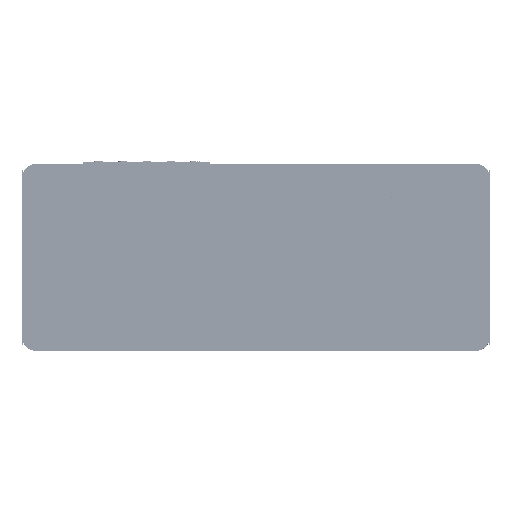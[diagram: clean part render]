
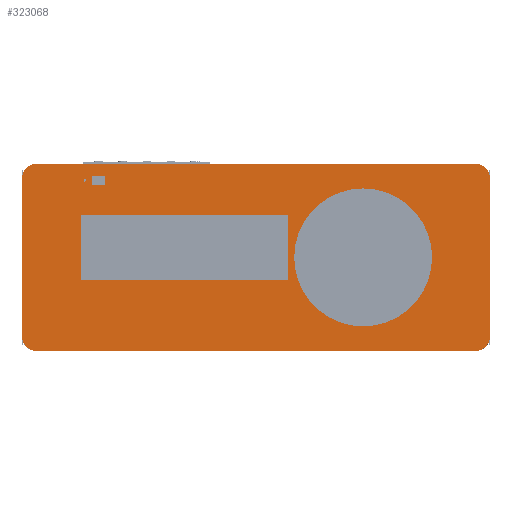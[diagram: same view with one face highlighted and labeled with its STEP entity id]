
A CAD part, top view. The second image highlights one B-rep face of the part: STEP entity #323068.
In plain terms, the highlighted planar face has unit normal (0, 0, 1).
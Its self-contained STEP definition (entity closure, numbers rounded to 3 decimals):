
#15062=FACE_BOUND('',#45192,.T.);
#15063=FACE_BOUND('',#45193,.T.);
#15064=FACE_BOUND('',#45194,.T.);
#15065=FACE_BOUND('',#45195,.T.);
#15925=CIRCLE('',#342103,6.);
#16225=CIRCLE('',#342407,6.);
#16535=CIRCLE('',#343027,6.);
#16833=CIRCLE('',#343329,6.);
#17133=CIRCLE('',#343942,0.5);
#17137=CIRCLE('',#343948,28.);
#27572=FACE_OUTER_BOUND('',#45191,.T.);
#45191=EDGE_LOOP('',(#220131,#220132,#220133,#220134,#220135,#220136,#220137,
#220138));
#45192=EDGE_LOOP('',(#220139,#220140,#220141,#220142));
#45193=EDGE_LOOP('',(#220143));
#45194=EDGE_LOOP('',(#220144,#220145,#220146,#220147));
#45195=EDGE_LOOP('',(#220148));
#61951=LINE('',#455449,#100237);
#62319=LINE('',#458052,#100605);
#62654=LINE('',#460236,#100940);
#62658=LINE('',#460244,#100944);
#62661=LINE('',#460250,#100947);
#62664=LINE('',#460255,#100950);
#62669=LINE('',#460277,#100955);
#62670=LINE('',#460278,#100956);
#62671=LINE('',#460281,#100957);
#62672=LINE('',#460283,#100958);
#62673=LINE('',#460285,#100959);
#62674=LINE('',#460286,#100960);
#100237=VECTOR('',#367222,10.);
#100605=VECTOR('',#369436,10.);
#100940=VECTOR('',#371585,10.);
#100944=VECTOR('',#371591,10.);
#100947=VECTOR('',#371596,10.);
#100950=VECTOR('',#371601,10.);
#100955=VECTOR('',#371628,10.);
#100956=VECTOR('',#371629,10.);
#100957=VECTOR('',#371630,10.);
#100958=VECTOR('',#371631,10.);
#100959=VECTOR('',#371632,10.);
#100960=VECTOR('',#371633,10.);
#138477=VERTEX_POINT('',#455085);
#138478=VERTEX_POINT('',#455087);
#138513=VERTEX_POINT('',#455447);
#138812=VERTEX_POINT('',#456060);
#139163=VERTEX_POINT('',#457690);
#139164=VERTEX_POINT('',#457692);
#139198=VERTEX_POINT('',#458050);
#139496=VERTEX_POINT('',#458661);
#139820=VERTEX_POINT('',#460234);
#139821=VERTEX_POINT('',#460235);
#139824=VERTEX_POINT('',#460243);
#139826=VERTEX_POINT('',#460249);
#139829=VERTEX_POINT('',#460260);
#139833=VERTEX_POINT('',#460272);
#139834=VERTEX_POINT('',#460279);
#139835=VERTEX_POINT('',#460280);
#139836=VERTEX_POINT('',#460282);
#139837=VERTEX_POINT('',#460284);
#168958=EDGE_CURVE('',#138478,#138477,#15925,.T.);
#168996=EDGE_CURVE('',#138477,#138513,#61951,.T.);
#169308=EDGE_CURVE('',#138513,#138812,#16225,.T.);
#169980=EDGE_CURVE('',#139164,#139163,#16535,.T.);
#170017=EDGE_CURVE('',#139163,#139198,#62319,.T.);
#170328=EDGE_CURVE('',#139198,#139496,#16833,.T.);
#170970=EDGE_CURVE('',#139820,#139821,#62654,.T.);
#170974=EDGE_CURVE('',#139821,#139824,#62658,.T.);
#170977=EDGE_CURVE('',#139824,#139826,#62661,.T.);
#170980=EDGE_CURVE('',#139826,#139820,#62664,.T.);
#170984=EDGE_CURVE('',#139829,#139829,#17133,.T.);
#170990=EDGE_CURVE('',#139833,#139833,#17137,.T.);
#170991=EDGE_CURVE('',#138812,#139164,#62669,.T.);
#170992=EDGE_CURVE('',#139496,#138478,#62670,.T.);
#170993=EDGE_CURVE('',#139834,#139835,#62671,.T.);
#170994=EDGE_CURVE('',#139835,#139836,#62672,.T.);
#170995=EDGE_CURVE('',#139836,#139837,#62673,.T.);
#170996=EDGE_CURVE('',#139837,#139834,#62674,.T.);
#220131=ORIENTED_EDGE('',*,*,#170991,.T.);
#220132=ORIENTED_EDGE('',*,*,#169980,.T.);
#220133=ORIENTED_EDGE('',*,*,#170017,.T.);
#220134=ORIENTED_EDGE('',*,*,#170328,.T.);
#220135=ORIENTED_EDGE('',*,*,#170992,.T.);
#220136=ORIENTED_EDGE('',*,*,#168958,.T.);
#220137=ORIENTED_EDGE('',*,*,#168996,.T.);
#220138=ORIENTED_EDGE('',*,*,#169308,.T.);
#220139=ORIENTED_EDGE('',*,*,#170977,.T.);
#220140=ORIENTED_EDGE('',*,*,#170980,.T.);
#220141=ORIENTED_EDGE('',*,*,#170970,.T.);
#220142=ORIENTED_EDGE('',*,*,#170974,.T.);
#220143=ORIENTED_EDGE('',*,*,#170984,.T.);
#220144=ORIENTED_EDGE('',*,*,#170993,.T.);
#220145=ORIENTED_EDGE('',*,*,#170994,.T.);
#220146=ORIENTED_EDGE('',*,*,#170995,.T.);
#220147=ORIENTED_EDGE('',*,*,#170996,.T.);
#220148=ORIENTED_EDGE('',*,*,#170990,.T.);
#310099=PLANE('',#343950);
#323068=ADVANCED_FACE('',(#27572,#15062,#15063,#15064,#15065),#310099,.T.);
#342103=AXIS2_PLACEMENT_3D('',#455088,#367200,#367201);
#342407=AXIS2_PLACEMENT_3D('',#456062,#367836,#367837);
#343027=AXIS2_PLACEMENT_3D('',#457693,#369416,#369417);
#343329=AXIS2_PLACEMENT_3D('',#458663,#370048,#370049);
#343942=AXIS2_PLACEMENT_3D('',#460262,#371608,#371609);
#343948=AXIS2_PLACEMENT_3D('',#460274,#371622,#371623);
#343950=AXIS2_PLACEMENT_3D('',#460276,#371626,#371627);
#367200=DIRECTION('center_axis',(0.,0.,1.));
#367201=DIRECTION('ref_axis',(1.,0.,0.));
#367222=DIRECTION('',(0.,1.,0.));
#367836=DIRECTION('center_axis',(0.,0.,1.));
#367837=DIRECTION('ref_axis',(1.,0.,0.));
#369416=DIRECTION('center_axis',(0.,0.,1.));
#369417=DIRECTION('ref_axis',(1.,0.,0.));
#369436=DIRECTION('',(0.,-1.,0.));
#370048=DIRECTION('center_axis',(0.,0.,1.));
#370049=DIRECTION('ref_axis',(1.,0.,0.));
#371585=DIRECTION('',(1.,0.,0.));
#371591=DIRECTION('',(0.,-1.,0.));
#371596=DIRECTION('',(-1.,0.,0.));
#371601=DIRECTION('',(0.,1.,0.));
#371608=DIRECTION('center_axis',(0.,0.,-1.));
#371609=DIRECTION('ref_axis',(1.,0.,0.));
#371622=DIRECTION('center_axis',(0.,0.,-1.));
#371623=DIRECTION('ref_axis',(1.,0.,0.));
#371626=DIRECTION('center_axis',(0.,0.,1.));
#371627=DIRECTION('ref_axis',(1.,0.,0.));
#371628=DIRECTION('',(-1.,0.,0.));
#371629=DIRECTION('',(1.,0.,0.));
#371630=DIRECTION('',(-1.,0.,0.));
#371631=DIRECTION('',(0.,1.,0.));
#371632=DIRECTION('',(1.,0.,0.));
#371633=DIRECTION('',(0.,-1.,0.));
#455085=CARTESIAN_POINT('',(95.,-32.,32.5));
#455087=CARTESIAN_POINT('',(89.,-38.,32.5));
#455088=CARTESIAN_POINT('Origin',(89.,-32.,32.5));
#455447=CARTESIAN_POINT('',(95.,32.,32.5));
#455449=CARTESIAN_POINT('',(95.,0.,32.5));
#456060=CARTESIAN_POINT('',(89.,38.,32.5));
#456062=CARTESIAN_POINT('Origin',(89.,32.,32.5));
#457690=CARTESIAN_POINT('',(-95.,32.,32.5));
#457692=CARTESIAN_POINT('',(-89.,38.,32.5));
#457693=CARTESIAN_POINT('Origin',(-89.,32.,32.5));
#458050=CARTESIAN_POINT('',(-95.,-32.,32.5));
#458052=CARTESIAN_POINT('',(-95.,0.,32.5));
#458661=CARTESIAN_POINT('',(-89.,-38.,32.5));
#458663=CARTESIAN_POINT('Origin',(-89.,-32.,32.5));
#460234=CARTESIAN_POINT('',(-66.5,33.,32.5));
#460235=CARTESIAN_POINT('',(-61.5,33.,32.5));
#460236=CARTESIAN_POINT('',(-32.,33.,32.5));
#460243=CARTESIAN_POINT('',(-61.5,29.5,32.5));
#460244=CARTESIAN_POINT('',(-61.5,15.625,32.5));
#460249=CARTESIAN_POINT('',(-66.5,29.5,32.5));
#460250=CARTESIAN_POINT('',(-32.,29.5,32.5));
#460255=CARTESIAN_POINT('',(-66.5,15.625,32.5));
#460260=CARTESIAN_POINT('',(-70.,31.25,32.5));
#460262=CARTESIAN_POINT('Origin',(-69.5,31.25,32.5));
#460272=CARTESIAN_POINT('',(15.5,0.,32.5));
#460274=CARTESIAN_POINT('Origin',(43.5,0.,32.5));
#460276=CARTESIAN_POINT('Origin',(0.,0.,32.5));
#460277=CARTESIAN_POINT('',(0.,38.,32.5));
#460278=CARTESIAN_POINT('',(0.,-38.,32.5));
#460279=CARTESIAN_POINT('',(12.9,-9.1,32.5));
#460280=CARTESIAN_POINT('',(-70.9,-9.1,32.5));
#460281=CARTESIAN_POINT('',(-14.5,-9.1,32.5));
#460282=CARTESIAN_POINT('',(-70.9,17.1,32.5));
#460283=CARTESIAN_POINT('',(-70.9,2.,32.5));
#460284=CARTESIAN_POINT('',(12.9,17.1,32.5));
#460285=CARTESIAN_POINT('',(-14.5,17.1,32.5));
#460286=CARTESIAN_POINT('',(12.9,2.,32.5));
